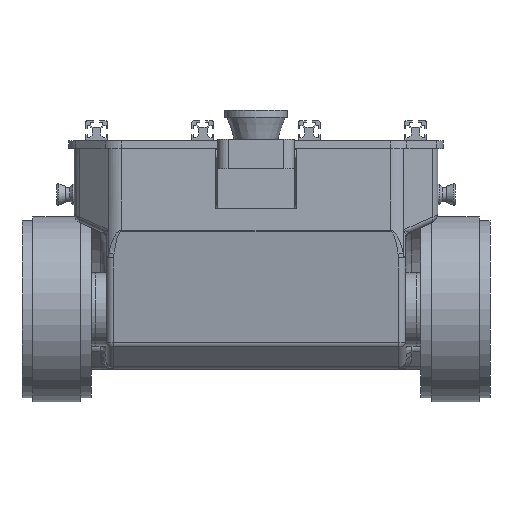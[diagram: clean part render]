
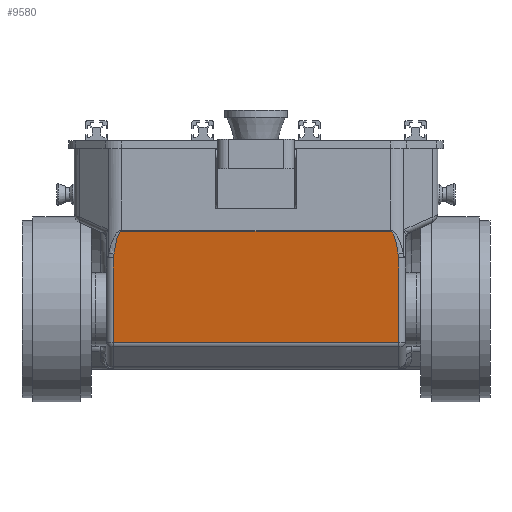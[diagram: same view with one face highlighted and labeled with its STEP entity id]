
A CAD part, front view. The second image highlights one B-rep face of the part: STEP entity #9580.
In plain terms, the highlighted planar face has unit normal (0, -0.99, -0.139).
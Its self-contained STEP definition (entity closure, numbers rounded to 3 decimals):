
#86=ELLIPSE('',#10472,107.779,15.);
#91=ELLIPSE('',#10529,107.779,15.);
#1318=FACE_OUTER_BOUND('',#1887,.T.);
#1887=EDGE_LOOP('',(#8201,#8202,#8203,#8204,#8205,#8206,#8207,#8208));
#2800=LINE('',#17552,#3723);
#2801=LINE('',#17592,#3724);
#2826=LINE('',#17758,#3749);
#2828=LINE('',#17764,#3751);
#2829=LINE('',#17766,#3752);
#2830=LINE('',#17768,#3753);
#3723=VECTOR('',#12761,10.);
#3724=VECTOR('',#12772,10.);
#3749=VECTOR('',#12899,10.);
#3751=VECTOR('',#12905,10.);
#3752=VECTOR('',#12906,10.);
#3753=VECTOR('',#12907,10.);
#4579=VERTEX_POINT('',#17546);
#4580=VERTEX_POINT('',#17550);
#4582=VERTEX_POINT('',#17584);
#4583=VERTEX_POINT('',#17586);
#4608=VERTEX_POINT('',#17757);
#4610=VERTEX_POINT('',#17763);
#4611=VERTEX_POINT('',#17765);
#4612=VERTEX_POINT('',#17767);
#5782=EDGE_CURVE('',#4580,#4579,#2800,.T.);
#5784=EDGE_CURVE('',#4582,#4583,#86,.T.);
#5787=EDGE_CURVE('',#4579,#4582,#2801,.T.);
#5839=EDGE_CURVE('',#4583,#4608,#2826,.T.);
#5842=EDGE_CURVE('',#4610,#4580,#2828,.T.);
#5843=EDGE_CURVE('',#4611,#4610,#2829,.T.);
#5844=EDGE_CURVE('',#4612,#4611,#2830,.T.);
#5845=EDGE_CURVE('',#4608,#4612,#91,.T.);
#8201=ORIENTED_EDGE('',*,*,#5784,.F.);
#8202=ORIENTED_EDGE('',*,*,#5787,.F.);
#8203=ORIENTED_EDGE('',*,*,#5782,.F.);
#8204=ORIENTED_EDGE('',*,*,#5842,.F.);
#8205=ORIENTED_EDGE('',*,*,#5843,.F.);
#8206=ORIENTED_EDGE('',*,*,#5844,.F.);
#8207=ORIENTED_EDGE('',*,*,#5845,.F.);
#8208=ORIENTED_EDGE('',*,*,#5839,.F.);
#9135=PLANE('',#10528);
#9580=ADVANCED_FACE('',(#1318),#9135,.T.);
#10472=AXIS2_PLACEMENT_3D('',#17587,#12764,#12765);
#10528=AXIS2_PLACEMENT_3D('',#17762,#12903,#12904);
#10529=AXIS2_PLACEMENT_3D('',#17769,#12908,#12909);
#12761=DIRECTION('',(0.,-0.139,0.99));
#12764=DIRECTION('center_axis',(0.,0.99,0.139));
#12765=DIRECTION('ref_axis',(0.,-0.139,0.99));
#12772=DIRECTION('',(0.138,-0.138,0.981));
#12899=DIRECTION('',(1.,0.,0.));
#12903=DIRECTION('center_axis',(0.,-0.99,-0.139));
#12904=DIRECTION('ref_axis',(0.,0.139,-0.99));
#12905=DIRECTION('',(-1.,0.,0.));
#12906=DIRECTION('',(0.,0.139,-0.99));
#12907=DIRECTION('',(0.138,0.138,-0.981));
#12908=DIRECTION('center_axis',(0.,0.99,0.139));
#12909=DIRECTION('ref_axis',(0.,-0.139,0.99));
#17546=CARTESIAN_POINT('',(-196.,-374.761,197.719));
#17550=CARTESIAN_POINT('',(-196.,-358.39,81.238));
#17552=CARTESIAN_POINT('',(-196.,-358.712,83.527));
#17584=CARTESIAN_POINT('',(-195.251,-375.509,203.047));
#17586=CARTESIAN_POINT('',(-184.645,-379.903,234.308));
#17587=CARTESIAN_POINT('Origin',(-184.645,-364.903,127.577));
#17592=CARTESIAN_POINT('',(-192.178,-378.583,224.916));
#17757=CARTESIAN_POINT('',(184.645,-379.903,234.308));
#17758=CARTESIAN_POINT('',(0.,-379.903,234.308));
#17762=CARTESIAN_POINT('Origin',(0.,-357.924,77.924));
#17763=CARTESIAN_POINT('',(196.,-358.39,81.238));
#17764=CARTESIAN_POINT('',(0.,-358.39,81.238));
#17765=CARTESIAN_POINT('',(196.,-374.761,197.719));
#17766=CARTESIAN_POINT('',(196.,-358.712,83.527));
#17767=CARTESIAN_POINT('',(195.251,-375.509,203.047));
#17768=CARTESIAN_POINT('',(193.223,-377.538,217.48));
#17769=CARTESIAN_POINT('Origin',(184.645,-364.903,127.577));
